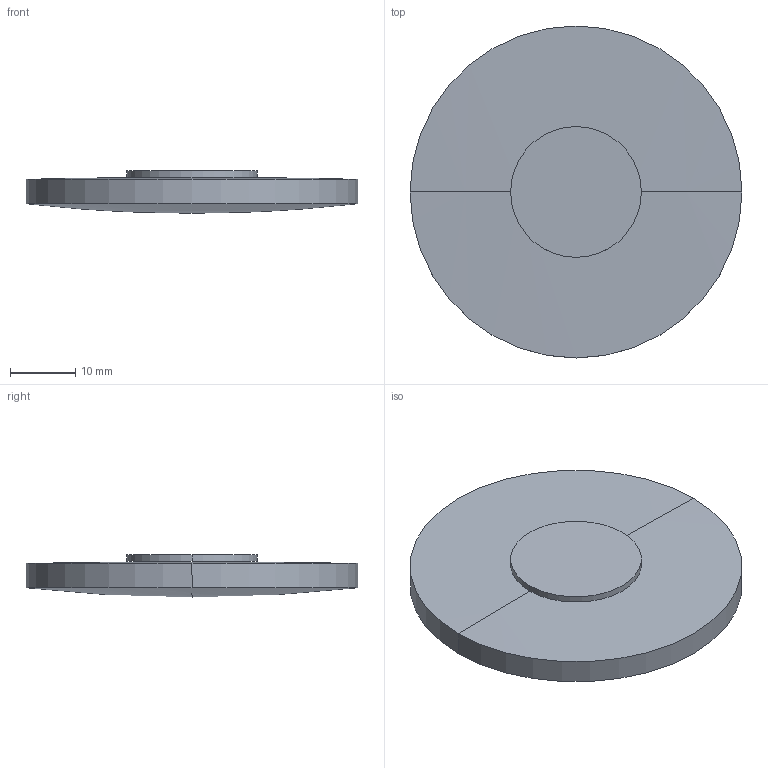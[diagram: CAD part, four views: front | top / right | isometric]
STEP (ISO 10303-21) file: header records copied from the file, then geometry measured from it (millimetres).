
FILE_DESCRIPTION(('STEP AP214'),'1');
FILE_NAME('LLU-51380.STEP','2020-03-09T17:42:16',(' '),(' '),'Spatial InterOp 3D',' ',' ');
FILE_SCHEMA(('AUTOMOTIVE_DESIGN { 1 0 10303 214 1 1 1 1 }'));
Length unit declared in the file: millimetre
Products named in the file (1): 1
Bounding box: 50.8 x 50.8 x 6.5 mm (x, y, z)
Volume: 9685.4 mm3; surface area: 5349.5 mm2
Topology: 2 solids, 2 shells, 10 faces, 20 edges, 10 vertices
Faces by surface type: sphere 4, cylinder 4, plane 2
Entity records: 255 total; most frequent: DIRECTION 52, CARTESIAN_POINT 38, ORIENTED_EDGE 32, AXIS2_PLACEMENT_3D 24, EDGE_CURVE 16, CIRCLE 12, ADVANCED_FACE 10, FACE_OUTER_BOUND 10
